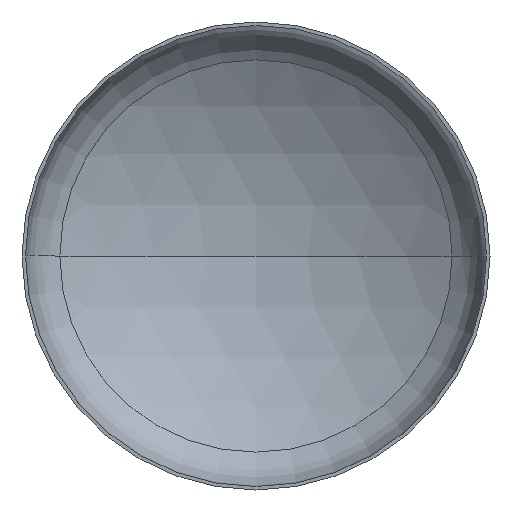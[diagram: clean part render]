
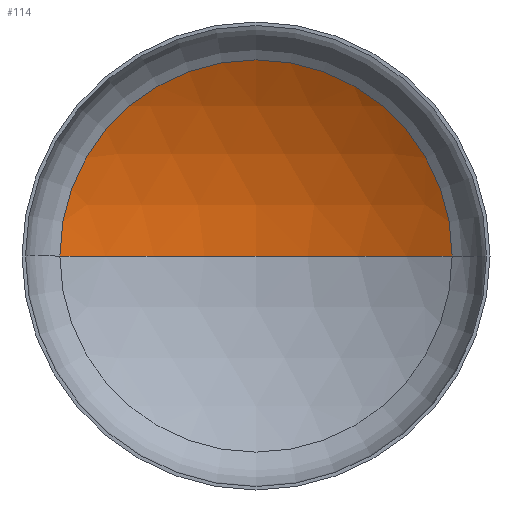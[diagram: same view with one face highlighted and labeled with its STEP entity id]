
A CAD part, front view. The second image highlights one B-rep face of the part: STEP entity #114.
In plain terms, the highlighted spherical face has radius 4800 mm.
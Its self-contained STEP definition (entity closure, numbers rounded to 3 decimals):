
#4 = ORIENTED_EDGE ( 'NONE', *, *, #199, .F. ) ;
#6 = DIRECTION ( 'NONE',  ( -1., 0., 0. ) ) ;
#12 = DIRECTION ( 'NONE',  ( 0., 0., -1. ) ) ;
#33 = VERTEX_POINT ( 'NONE', #270 ) ;
#35 = DIRECTION ( 'NONE',  ( 1., 0., 0. ) ) ;
#51 = CIRCLE ( 'NONE', #103, 4800. ) ;
#86 = VERTEX_POINT ( 'NONE', #230 ) ;
#88 = AXIS2_PLACEMENT_3D ( 'NONE', #268, #399, #35 ) ;
#103 = AXIS2_PLACEMENT_3D ( 'NONE', #104, #12, #6 ) ;
#104 = CARTESIAN_POINT ( 'NONE',  ( 0., -3160.716, 0. ) ) ;
#109 = ORIENTED_EDGE ( 'NONE', *, *, #195, .T. ) ;
#110 = AXIS2_PLACEMENT_3D ( 'NONE', #200, #178, #179 ) ;
#114 = ADVANCED_FACE ( 'NONE', ( #332 ), #158, .F. ) ;
#121 = EDGE_LOOP ( 'NONE', ( #4, #127, #109 ) ) ;
#127 = ORIENTED_EDGE ( 'NONE', *, *, #198, .T. ) ;
#136 = VERTEX_POINT ( 'NONE', #330 ) ;
#154 = AXIS2_PLACEMENT_3D ( 'NONE', #220, #229, #218 ) ;
#158 = SPHERICAL_SURFACE ( 'NONE', #154, 4800. ) ;
#178 = DIRECTION ( 'NONE',  ( 0., -1., 0. ) ) ;
#179 = DIRECTION ( 'NONE',  ( 1., 0., 0. ) ) ;
#195 = EDGE_CURVE ( 'NONE', #33, #86, #376, .T. ) ;
#198 = EDGE_CURVE ( 'NONE', #136, #33, #51, .T. ) ;
#199 = EDGE_CURVE ( 'NONE', #136, #86, #372, .T. ) ;
#200 = CARTESIAN_POINT ( 'NONE',  ( 0., 927.913, 0. ) ) ;
#218 = DIRECTION ( 'NONE',  ( -1., 0., 0. ) ) ;
#220 = CARTESIAN_POINT ( 'NONE',  ( 0., -3160.716, 0. ) ) ;
#229 = DIRECTION ( 'NONE',  ( 0., 0., -1. ) ) ;
#230 = CARTESIAN_POINT ( 'NONE',  ( -2514.581, 927.913, 0. ) ) ;
#268 = CARTESIAN_POINT ( 'NONE',  ( 0., -3160.716, 0. ) ) ;
#270 = CARTESIAN_POINT ( 'NONE',  ( 2514.581, 927.913, 0. ) ) ;
#330 = CARTESIAN_POINT ( 'NONE',  ( 0., 1639.284, 0. ) ) ;
#332 = FACE_OUTER_BOUND ( 'NONE', #121, .T. ) ;
#372 = CIRCLE ( 'NONE', #88, 4800. ) ;
#376 = CIRCLE ( 'NONE', #110, 2514.581 ) ;
#399 = DIRECTION ( 'NONE',  ( 0., 0., 1. ) ) ;
